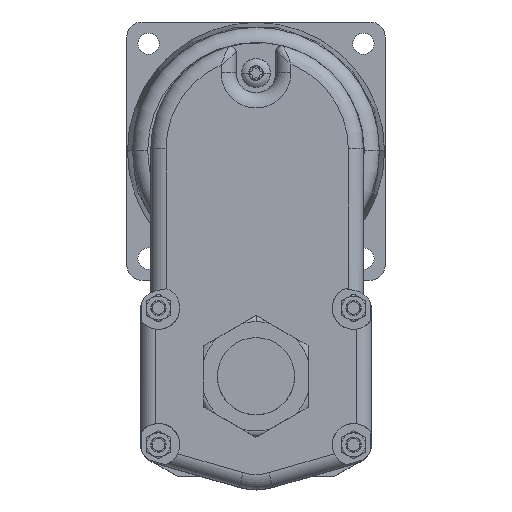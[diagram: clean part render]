
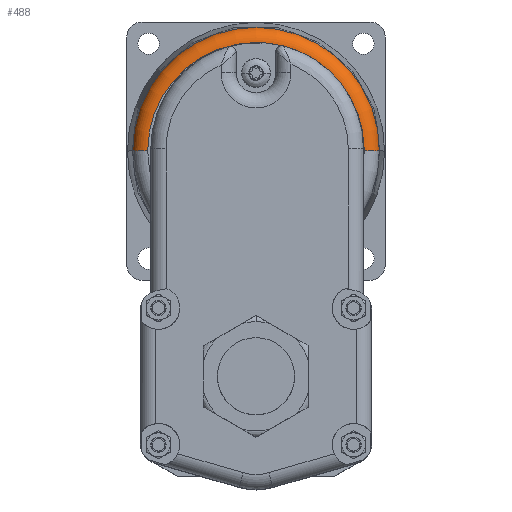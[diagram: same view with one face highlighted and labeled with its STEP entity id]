
A CAD part, top view. The second image highlights one B-rep face of the part: STEP entity #488.
In plain terms, the highlighted toroidal (fillet/blend) face has major radius 35.639 mm and minor radius 5 mm.
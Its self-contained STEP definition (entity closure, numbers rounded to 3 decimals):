
#488 = ADVANCED_FACE ( 'NONE', ( #6849 ), #6854, .T. ) ;
#654 = EDGE_CURVE ( 'NONE', #11355, #11366, #10217, .T. ) ;
#668 = EDGE_CURVE ( 'NONE', #11366, #11365, #10228, .T. ) ;
#670 = EDGE_CURVE ( 'NONE', #11355, #11388, #10230, .T. ) ;
#671 = EDGE_CURVE ( 'NONE', #11365, #11388, #10231, .T. ) ;
#2061 = ORIENTED_EDGE ( 'NONE', *, *, #670, .T. ) ;
#2062 = ORIENTED_EDGE ( 'NONE', *, *, #654, .F. ) ;
#2063 = ORIENTED_EDGE ( 'NONE', *, *, #671, .F. ) ;
#2064 = ORIENTED_EDGE ( 'NONE', *, *, #668, .F. ) ;
#3492 = AXIS2_PLACEMENT_3D ( 'NONE', #7752, #7751, #7754 ) ;
#5850 = EDGE_LOOP ( 'NONE', ( #2062, #2061, #2063, #2064 ) ) ;
#6849 = FACE_OUTER_BOUND ( 'NONE', #5850, .T. ) ;
#6854 = TOROIDAL_SURFACE ( 'NONE', #3492, 35.639, 5. ) ;
#7751 = DIRECTION ( 'NONE',  ( 0., 0., -1. ) ) ;
#7752 = CARTESIAN_POINT ( 'NONE',  ( 0., 74.4, 48.7 ) ) ;
#7754 = DIRECTION ( 'NONE',  ( -1., 0., 0. ) ) ;
#8489 = AXIS2_PLACEMENT_3D ( 'NONE', #9070, #9071, #9072 ) ;
#8491 = AXIS2_PLACEMENT_3D ( 'NONE', #9183, #9184, #9185 ) ;
#8495 = AXIS2_PLACEMENT_3D ( 'NONE', #9189, #9190, #9191 ) ;
#8497 = AXIS2_PLACEMENT_3D ( 'NONE', #9192, #9193, #9194 ) ;
#9070 = CARTESIAN_POINT ( 'NONE',  ( 0., 74.4, 53.7 ) ) ;
#9071 = DIRECTION ( 'NONE',  ( 0., 0., 1. ) ) ;
#9072 = DIRECTION ( 'NONE',  ( -1., 0., 0. ) ) ;
#9183 = CARTESIAN_POINT ( 'NONE',  ( -35.639, 74.4, 48.7 ) ) ;
#9184 = DIRECTION ( 'NONE',  ( 0., -1., 0. ) ) ;
#9185 = DIRECTION ( 'NONE',  ( 0., 0., -1. ) ) ;
#9189 = CARTESIAN_POINT ( 'NONE',  ( 35.639, 74.4, 48.7 ) ) ;
#9190 = DIRECTION ( 'NONE',  ( 0., 1., 0. ) ) ;
#9191 = DIRECTION ( 'NONE',  ( -1., 0., 0. ) ) ;
#9192 = CARTESIAN_POINT ( 'NONE',  ( 0., 74.4, 48.841 ) ) ;
#9193 = DIRECTION ( 'NONE',  ( 0., 0., -1. ) ) ;
#9194 = DIRECTION ( 'NONE',  ( 1., 0., 0. ) ) ;
#10217 = CIRCLE ( 'NONE', #8489, 35.639 ) ;
#10228 = CIRCLE ( 'NONE', #8491, 5. ) ;
#10230 = CIRCLE ( 'NONE', #8495, 5. ) ;
#10231 = CIRCLE ( 'NONE', #8497, 40.637 ) ;
#11355 = VERTEX_POINT ( 'NONE', #13893 ) ;
#11365 = VERTEX_POINT ( 'NONE', #13903 ) ;
#11366 = VERTEX_POINT ( 'NONE', #13904 ) ;
#11388 = VERTEX_POINT ( 'NONE', #13926 ) ;
#13893 = CARTESIAN_POINT ( 'NONE',  ( 35.639, 74.4, 53.7 ) ) ;
#13903 = CARTESIAN_POINT ( 'NONE',  ( -40.637, 74.4, 48.841 ) ) ;
#13904 = CARTESIAN_POINT ( 'NONE',  ( -35.639, 74.4, 53.7 ) ) ;
#13926 = CARTESIAN_POINT ( 'NONE',  ( 40.637, 74.4, 48.841 ) ) ;
